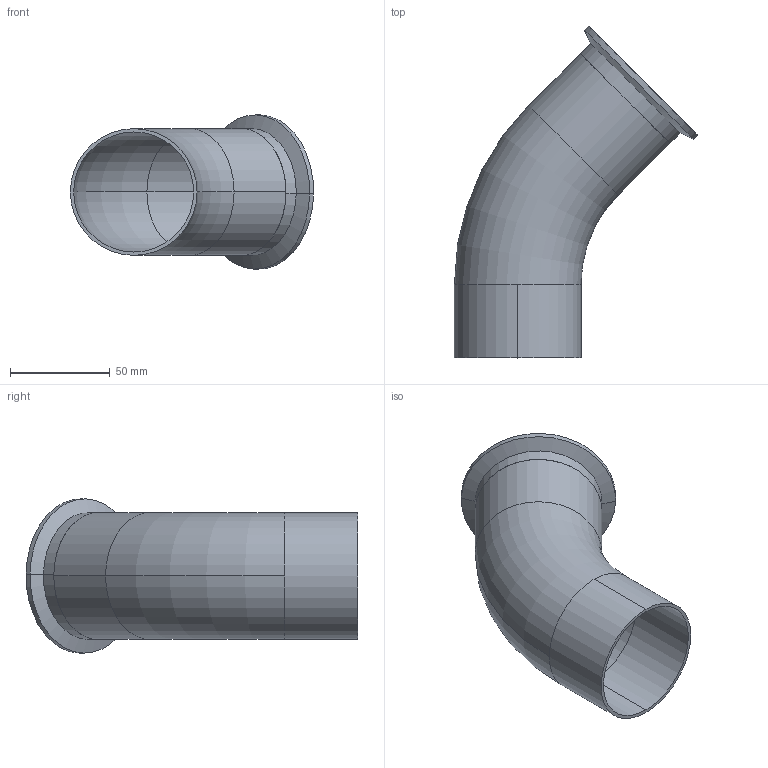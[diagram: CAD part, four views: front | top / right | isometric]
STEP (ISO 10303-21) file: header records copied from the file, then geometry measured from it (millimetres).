
FILE_DESCRIPTION (( 'STEP AP203' ), '1' );
FILE_NAME ('E2KC2.5.STEP', '2018-04-30T15:43:24', ( 'vneprd' ), ( 'Microsoft' ), 'SwSTEP 2.0', 'SolidWorks 2014', '' );
FILE_SCHEMA (( 'CONFIG_CONTROL_DESIGN' ));
Length unit declared in the file: inch
Products named in the file (1): E2KC2.5
Bounding box: 121.98 x 166.44 x 77.39 mm (x, y, z)
Volume: 57397.8 mm3; surface area: 66869.7 mm2
Topology: 2 solids, 2 shells, 31 faces, 66 edges, 40 vertices
Faces by surface type: cylinder 14, torus 10, plane 5, cone 2
Entity records: 939 total; most frequent: DIRECTION 180, CARTESIAN_POINT 138, ORIENTED_EDGE 132, AXIS2_PLACEMENT_3D 82, EDGE_CURVE 66, CIRCLE 50, VERTEX_POINT 40, EDGE_LOOP 36
